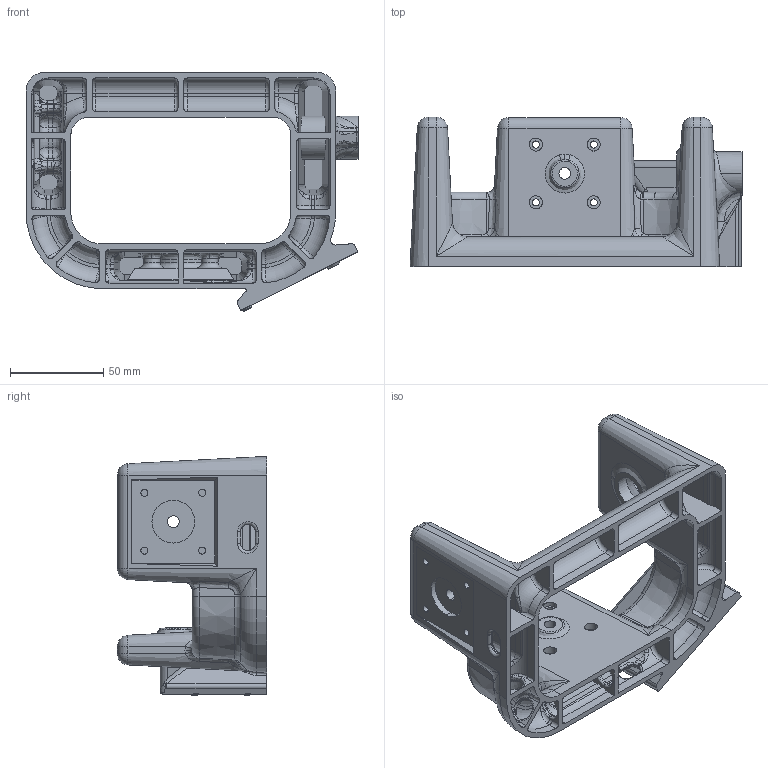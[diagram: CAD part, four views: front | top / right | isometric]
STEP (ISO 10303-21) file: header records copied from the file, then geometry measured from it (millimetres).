
FILE_DESCRIPTION (( 'STEP AP203' ), '1' );
FILE_NAME ('PJsb_Remake Main.STEP', '2018-02-21T16:56:17', ( '' ), ( '' ), 'SwSTEP 2.0', 'SolidWorks 2015', '' );
FILE_SCHEMA (( 'CONFIG_CONTROL_DESIGN' ));
Length unit declared in the file: inch
Products named in the file (1): PJsb_Remake Main
Bounding box: 178 x 80 x 128.28 mm (x, y, z)
Volume: 221530.2 mm3; surface area: 119320.5 mm2
Topology: 1 solids, 3 shells, 1080 faces, 2707 edges, 1595 vertices
Faces by surface type: bspline 351, cylinder 327, plane 232, torus 126, cone 42, sphere 2
Entity records: 48960 total; most frequent: CARTESIAN_POINT 26051, ORIENTED_EDGE 5308, DIRECTION 4195, EDGE_CURVE 2654, AXIS2_PLACEMENT_3D 1674, VERTEX_POINT 1595, EDGE_LOOP 1139, ADVANCED_FACE 1080
